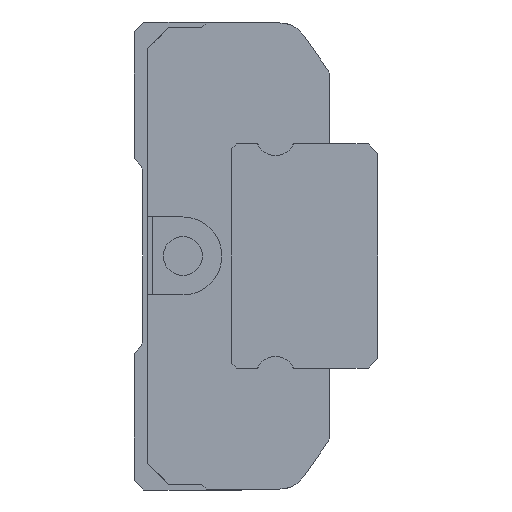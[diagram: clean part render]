
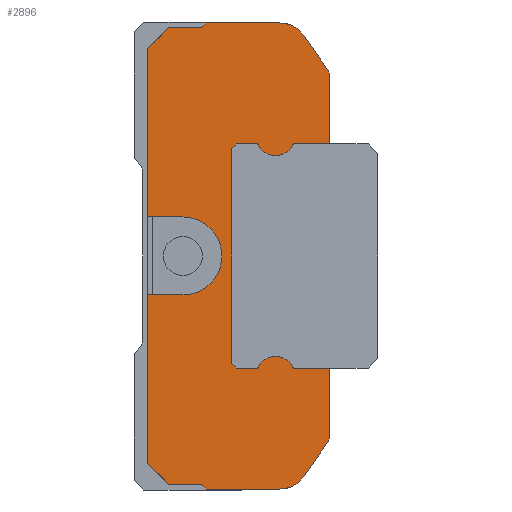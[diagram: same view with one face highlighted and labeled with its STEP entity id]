
A CAD part, left-side view. The second image highlights one B-rep face of the part: STEP entity #2896.
In plain terms, the highlighted planar face has unit normal (-1, 0, 0).
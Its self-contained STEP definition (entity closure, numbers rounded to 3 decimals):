
#74=CIRCLE('',#3118,4.);
#75=CIRCLE('',#3119,3.);
#76=CIRCLE('',#3120,1.);
#77=CIRCLE('',#3121,0.15);
#78=CIRCLE('',#3122,2.);
#79=CIRCLE('',#3123,0.15);
#80=CIRCLE('',#3124,0.15);
#81=CIRCLE('',#3125,2.);
#82=CIRCLE('',#3126,0.15);
#83=CIRCLE('',#3127,1.);
#84=CIRCLE('',#3128,3.);
#308=ORIENTED_EDGE('',*,*,#1072,.T.);
#309=ORIENTED_EDGE('',*,*,#1073,.T.);
#310=ORIENTED_EDGE('',*,*,#1074,.T.);
#311=ORIENTED_EDGE('',*,*,#1075,.F.);
#312=ORIENTED_EDGE('',*,*,#1076,.F.);
#313=ORIENTED_EDGE('',*,*,#1077,.F.);
#314=ORIENTED_EDGE('',*,*,#1078,.F.);
#315=ORIENTED_EDGE('',*,*,#1079,.F.);
#316=ORIENTED_EDGE('',*,*,#1080,.F.);
#317=ORIENTED_EDGE('',*,*,#1081,.F.);
#318=ORIENTED_EDGE('',*,*,#1082,.F.);
#319=ORIENTED_EDGE('',*,*,#1083,.F.);
#320=ORIENTED_EDGE('',*,*,#1084,.F.);
#321=ORIENTED_EDGE('',*,*,#1085,.T.);
#322=ORIENTED_EDGE('',*,*,#1086,.F.);
#323=ORIENTED_EDGE('',*,*,#1087,.T.);
#324=ORIENTED_EDGE('',*,*,#1088,.T.);
#325=ORIENTED_EDGE('',*,*,#1089,.T.);
#326=ORIENTED_EDGE('',*,*,#1090,.T.);
#327=ORIENTED_EDGE('',*,*,#1091,.T.);
#328=ORIENTED_EDGE('',*,*,#1092,.T.);
#329=ORIENTED_EDGE('',*,*,#1093,.T.);
#330=ORIENTED_EDGE('',*,*,#1094,.F.);
#331=ORIENTED_EDGE('',*,*,#1095,.T.);
#332=ORIENTED_EDGE('',*,*,#1096,.T.);
#333=ORIENTED_EDGE('',*,*,#1097,.F.);
#334=ORIENTED_EDGE('',*,*,#1098,.F.);
#335=ORIENTED_EDGE('',*,*,#1099,.F.);
#336=ORIENTED_EDGE('',*,*,#1100,.F.);
#337=ORIENTED_EDGE('',*,*,#1101,.F.);
#338=ORIENTED_EDGE('',*,*,#1102,.F.);
#339=ORIENTED_EDGE('',*,*,#1103,.F.);
#340=ORIENTED_EDGE('',*,*,#1104,.F.);
#341=ORIENTED_EDGE('',*,*,#1105,.F.);
#1072=EDGE_CURVE('',#1470,#1471,#1742,.T.);
#1073=EDGE_CURVE('',#1471,#1472,#74,.T.);
#1074=EDGE_CURVE('',#1472,#1473,#1743,.T.);
#1075=EDGE_CURVE('',#1474,#1473,#1744,.T.);
#1076=EDGE_CURVE('',#1475,#1474,#1745,.T.);
#1077=EDGE_CURVE('',#1476,#1475,#1746,.T.);
#1078=EDGE_CURVE('',#1477,#1476,#1747,.T.);
#1079=EDGE_CURVE('',#1478,#1477,#1748,.T.);
#1080=EDGE_CURVE('',#1479,#1478,#75,.T.);
#1081=EDGE_CURVE('',#1480,#1479,#1749,.T.);
#1082=EDGE_CURVE('',#1481,#1480,#76,.T.);
#1083=EDGE_CURVE('',#1482,#1481,#1750,.T.);
#1084=EDGE_CURVE('',#1483,#1482,#1751,.T.);
#1085=EDGE_CURVE('',#1483,#1484,#77,.T.);
#1086=EDGE_CURVE('',#1485,#1484,#78,.T.);
#1087=EDGE_CURVE('',#1485,#1486,#79,.T.);
#1088=EDGE_CURVE('',#1486,#1487,#1752,.T.);
#1089=EDGE_CURVE('',#1487,#1488,#1753,.T.);
#1090=EDGE_CURVE('',#1488,#1489,#1754,.T.);
#1091=EDGE_CURVE('',#1489,#1490,#1755,.T.);
#1092=EDGE_CURVE('',#1490,#1491,#1756,.T.);
#1093=EDGE_CURVE('',#1491,#1492,#80,.T.);
#1094=EDGE_CURVE('',#1493,#1492,#81,.T.);
#1095=EDGE_CURVE('',#1493,#1494,#82,.T.);
#1096=EDGE_CURVE('',#1494,#1495,#1757,.T.);
#1097=EDGE_CURVE('',#1496,#1495,#1758,.T.);
#1098=EDGE_CURVE('',#1497,#1496,#83,.T.);
#1099=EDGE_CURVE('',#1498,#1497,#1759,.T.);
#1100=EDGE_CURVE('',#1499,#1498,#84,.T.);
#1101=EDGE_CURVE('',#1500,#1499,#1760,.T.);
#1102=EDGE_CURVE('',#1501,#1500,#1761,.T.);
#1103=EDGE_CURVE('',#1502,#1501,#1762,.T.);
#1104=EDGE_CURVE('',#1503,#1502,#1763,.T.);
#1105=EDGE_CURVE('',#1470,#1503,#1764,.T.);
#1470=VERTEX_POINT('',#4316);
#1471=VERTEX_POINT('',#4317);
#1472=VERTEX_POINT('',#4319);
#1473=VERTEX_POINT('',#4321);
#1474=VERTEX_POINT('',#4323);
#1475=VERTEX_POINT('',#4325);
#1476=VERTEX_POINT('',#4327);
#1477=VERTEX_POINT('',#4329);
#1478=VERTEX_POINT('',#4331);
#1479=VERTEX_POINT('',#4333);
#1480=VERTEX_POINT('',#4335);
#1481=VERTEX_POINT('',#4337);
#1482=VERTEX_POINT('',#4339);
#1483=VERTEX_POINT('',#4341);
#1484=VERTEX_POINT('',#4343);
#1485=VERTEX_POINT('',#4345);
#1486=VERTEX_POINT('',#4347);
#1487=VERTEX_POINT('',#4349);
#1488=VERTEX_POINT('',#4351);
#1489=VERTEX_POINT('',#4353);
#1490=VERTEX_POINT('',#4355);
#1491=VERTEX_POINT('',#4357);
#1492=VERTEX_POINT('',#4359);
#1493=VERTEX_POINT('',#4361);
#1494=VERTEX_POINT('',#4363);
#1495=VERTEX_POINT('',#4365);
#1496=VERTEX_POINT('',#4367);
#1497=VERTEX_POINT('',#4369);
#1498=VERTEX_POINT('',#4371);
#1499=VERTEX_POINT('',#4373);
#1500=VERTEX_POINT('',#4375);
#1501=VERTEX_POINT('',#4377);
#1502=VERTEX_POINT('',#4379);
#1503=VERTEX_POINT('',#4381);
#1742=LINE('',#4315,#2060);
#1743=LINE('',#4320,#2061);
#1744=LINE('',#4322,#2062);
#1745=LINE('',#4324,#2063);
#1746=LINE('',#4326,#2064);
#1747=LINE('',#4328,#2065);
#1748=LINE('',#4330,#2066);
#1749=LINE('',#4334,#2067);
#1750=LINE('',#4338,#2068);
#1751=LINE('',#4340,#2069);
#1752=LINE('',#4348,#2070);
#1753=LINE('',#4350,#2071);
#1754=LINE('',#4352,#2072);
#1755=LINE('',#4354,#2073);
#1756=LINE('',#4356,#2074);
#1757=LINE('',#4364,#2075);
#1758=LINE('',#4366,#2076);
#1759=LINE('',#4370,#2077);
#1760=LINE('',#4374,#2078);
#1761=LINE('',#4376,#2079);
#1762=LINE('',#4378,#2080);
#1763=LINE('',#4380,#2081);
#1764=LINE('',#4382,#2082);
#2060=VECTOR('',#3480,1000.);
#2061=VECTOR('',#3483,1000.);
#2062=VECTOR('',#3484,1000.);
#2063=VECTOR('',#3485,1000.);
#2064=VECTOR('',#3486,1000.);
#2065=VECTOR('',#3487,1000.);
#2066=VECTOR('',#3488,1000.);
#2067=VECTOR('',#3491,1000.);
#2068=VECTOR('',#3494,1000.);
#2069=VECTOR('',#3495,1000.);
#2070=VECTOR('',#3502,1000.);
#2071=VECTOR('',#3503,1000.);
#2072=VECTOR('',#3504,1000.);
#2073=VECTOR('',#3505,1000.);
#2074=VECTOR('',#3506,1000.);
#2075=VECTOR('',#3513,1000.);
#2076=VECTOR('',#3514,1000.);
#2077=VECTOR('',#3517,1000.);
#2078=VECTOR('',#3520,1000.);
#2079=VECTOR('',#3521,1000.);
#2080=VECTOR('',#3522,1000.);
#2081=VECTOR('',#3523,1000.);
#2082=VECTOR('',#3524,1000.);
#2392=EDGE_LOOP('',(#308,#309,#310,#311,#312,#313,#314,#315,#316,#317,#318,
#319,#320,#321,#322,#323,#324,#325,#326,#327,#328,#329,#330,#331,#332,#333,
#334,#335,#336,#337,#338,#339,#340,#341));
#2594=FACE_BOUND('',#2392,.T.);
#2766=PLANE('',#3117);
#2896=ADVANCED_FACE('',(#2594),#2766,.F.);
#3117=AXIS2_PLACEMENT_3D('',#4314,#3478,#3479);
#3118=AXIS2_PLACEMENT_3D('',#4318,#3481,#3482);
#3119=AXIS2_PLACEMENT_3D('',#4332,#3489,#3490);
#3120=AXIS2_PLACEMENT_3D('',#4336,#3492,#3493);
#3121=AXIS2_PLACEMENT_3D('',#4342,#3496,#3497);
#3122=AXIS2_PLACEMENT_3D('',#4344,#3498,#3499);
#3123=AXIS2_PLACEMENT_3D('',#4346,#3500,#3501);
#3124=AXIS2_PLACEMENT_3D('',#4358,#3507,#3508);
#3125=AXIS2_PLACEMENT_3D('',#4360,#3509,#3510);
#3126=AXIS2_PLACEMENT_3D('',#4362,#3511,#3512);
#3127=AXIS2_PLACEMENT_3D('',#4368,#3515,#3516);
#3128=AXIS2_PLACEMENT_3D('',#4372,#3518,#3519);
#3478=DIRECTION('',(1.,0.,0.));
#3479=DIRECTION('',(0.,0.,-1.));
#3480=DIRECTION('',(0.,-1.,0.));
#3481=DIRECTION('',(1.,0.,0.));
#3482=DIRECTION('',(0.,0.,-1.));
#3483=DIRECTION('',(0.,1.,0.));
#3484=DIRECTION('',(0.,0.,1.));
#3485=DIRECTION('',(0.,0.707,0.707));
#3486=DIRECTION('',(0.,1.,0.));
#3487=DIRECTION('',(0.,0.707,0.707));
#3488=DIRECTION('',(0.,1.,0.));
#3489=DIRECTION('',(1.,0.,0.));
#3490=DIRECTION('',(0.,0.,-1.));
#3491=DIRECTION('',(0.,0.573,-0.819));
#3492=DIRECTION('',(1.,0.,0.));
#3493=DIRECTION('',(0.,0.,-1.));
#3494=DIRECTION('',(0.,0.,-1.));
#3495=DIRECTION('',(0.,-1.,0.));
#3496=DIRECTION('',(1.,0.,0.));
#3497=DIRECTION('',(0.,0.,-1.));
#3498=DIRECTION('',(1.,0.,0.));
#3499=DIRECTION('',(0.,0.,-1.));
#3500=DIRECTION('',(1.,0.,0.));
#3501=DIRECTION('',(0.,0.,-1.));
#3502=DIRECTION('',(0.,1.,0.));
#3503=DIRECTION('',(0.,0.707,0.707));
#3504=DIRECTION('',(0.,0.,1.));
#3505=DIRECTION('',(0.,-0.707,0.707));
#3506=DIRECTION('',(0.,-1.,0.));
#3507=DIRECTION('',(1.,0.,0.));
#3508=DIRECTION('',(0.,0.,-1.));
#3509=DIRECTION('',(1.,0.,0.));
#3510=DIRECTION('',(0.,0.,-1.));
#3511=DIRECTION('',(1.,0.,0.));
#3512=DIRECTION('',(0.,0.,-1.));
#3513=DIRECTION('',(0.,-1.,0.));
#3514=DIRECTION('',(0.,0.,-1.));
#3515=DIRECTION('',(1.,0.,0.));
#3516=DIRECTION('',(0.,0.,-1.));
#3517=DIRECTION('',(0.,-0.573,-0.819));
#3518=DIRECTION('',(1.,0.,0.));
#3519=DIRECTION('',(0.,0.,-1.));
#3520=DIRECTION('',(0.,-1.,0.));
#3521=DIRECTION('',(0.,-0.707,0.707));
#3522=DIRECTION('',(0.,-1.,0.));
#3523=DIRECTION('',(0.,-0.707,0.707));
#3524=DIRECTION('',(0.,0.,1.));
#4314=CARTESIAN_POINT('',(-38.5,5.062,20.9));
#4315=CARTESIAN_POINT('',(-38.5,20.,4.));
#4316=CARTESIAN_POINT('',(-38.5,18.6,4.));
#4317=CARTESIAN_POINT('',(-38.5,15.,4.));
#4318=CARTESIAN_POINT('',(-38.5,15.,0.));
#4319=CARTESIAN_POINT('',(-38.5,15.,-4.));
#4320=CARTESIAN_POINT('',(-38.5,15.,-4.));
#4321=CARTESIAN_POINT('',(-38.5,18.6,-4.));
#4322=CARTESIAN_POINT('',(-38.5,18.6,-21.3));
#4323=CARTESIAN_POINT('',(-38.5,18.6,-21.3));
#4324=CARTESIAN_POINT('',(-38.5,16.5,-23.4));
#4325=CARTESIAN_POINT('',(-38.5,16.5,-23.4));
#4326=CARTESIAN_POINT('',(-38.5,13.1,-23.4));
#4327=CARTESIAN_POINT('',(-38.5,13.1,-23.4));
#4328=CARTESIAN_POINT('',(-38.5,12.6,-23.9));
#4329=CARTESIAN_POINT('',(-38.5,12.6,-23.9));
#4330=CARTESIAN_POINT('',(-38.5,5.062,-23.9));
#4331=CARTESIAN_POINT('',(-38.5,5.062,-23.9));
#4332=CARTESIAN_POINT('',(-38.5,5.062,-20.9));
#4333=CARTESIAN_POINT('',(-38.5,2.604,-22.62));
#4334=CARTESIAN_POINT('',(-38.5,0.181,-19.158));
#4335=CARTESIAN_POINT('',(-38.5,0.181,-19.158));
#4336=CARTESIAN_POINT('',(-38.5,1.,-18.585));
#4337=CARTESIAN_POINT('',(-38.5,0.,-18.585));
#4338=CARTESIAN_POINT('',(-38.5,0.,18.585));
#4339=CARTESIAN_POINT('',(-38.5,0.,-11.5));
#4340=CARTESIAN_POINT('',(-38.5,5.062,-11.5));
#4341=CARTESIAN_POINT('',(-38.5,3.571,-11.5));
#4342=CARTESIAN_POINT('',(-38.5,3.571,-11.35));
#4343=CARTESIAN_POINT('',(-38.5,3.706,-11.416));
#4344=CARTESIAN_POINT('',(-38.5,5.5,-12.3));
#4345=CARTESIAN_POINT('',(-38.5,7.294,-11.416));
#4346=CARTESIAN_POINT('',(-38.5,7.429,-11.35));
#4347=CARTESIAN_POINT('',(-38.5,7.429,-11.5));
#4348=CARTESIAN_POINT('',(-38.5,7.429,-11.5));
#4349=CARTESIAN_POINT('',(-38.5,9.5,-11.5));
#4350=CARTESIAN_POINT('',(-38.5,9.5,-11.5));
#4351=CARTESIAN_POINT('',(-38.5,10.,-11.));
#4352=CARTESIAN_POINT('',(-38.5,10.,-11.));
#4353=CARTESIAN_POINT('',(-38.5,10.,11.));
#4354=CARTESIAN_POINT('',(-38.5,10.,11.));
#4355=CARTESIAN_POINT('',(-38.5,9.5,11.5));
#4356=CARTESIAN_POINT('',(-38.5,9.5,11.5));
#4357=CARTESIAN_POINT('',(-38.5,7.429,11.5));
#4358=CARTESIAN_POINT('',(-38.5,7.429,11.35));
#4359=CARTESIAN_POINT('',(-38.5,7.294,11.416));
#4360=CARTESIAN_POINT('',(-38.5,5.5,12.3));
#4361=CARTESIAN_POINT('',(-38.5,3.706,11.416));
#4362=CARTESIAN_POINT('',(-38.5,3.571,11.35));
#4363=CARTESIAN_POINT('',(-38.5,3.571,11.5));
#4364=CARTESIAN_POINT('',(-38.5,3.571,11.5));
#4365=CARTESIAN_POINT('',(-38.5,0.,11.5));
#4366=CARTESIAN_POINT('',(-38.5,0.,18.585));
#4367=CARTESIAN_POINT('',(-38.5,0.,18.585));
#4368=CARTESIAN_POINT('',(-38.5,1.,18.585));
#4369=CARTESIAN_POINT('',(-38.5,0.181,19.158));
#4370=CARTESIAN_POINT('',(-38.5,2.604,22.62));
#4371=CARTESIAN_POINT('',(-38.5,2.604,22.62));
#4372=CARTESIAN_POINT('',(-38.5,5.062,20.9));
#4373=CARTESIAN_POINT('',(-38.5,5.062,23.9));
#4374=CARTESIAN_POINT('',(-38.5,12.6,23.9));
#4375=CARTESIAN_POINT('',(-38.5,12.6,23.9));
#4376=CARTESIAN_POINT('',(-38.5,13.1,23.4));
#4377=CARTESIAN_POINT('',(-38.5,13.1,23.4));
#4378=CARTESIAN_POINT('',(-38.5,16.5,23.4));
#4379=CARTESIAN_POINT('',(-38.5,16.5,23.4));
#4380=CARTESIAN_POINT('',(-38.5,18.6,21.3));
#4381=CARTESIAN_POINT('',(-38.5,18.6,21.3));
#4382=CARTESIAN_POINT('',(-38.5,18.6,-21.3));
